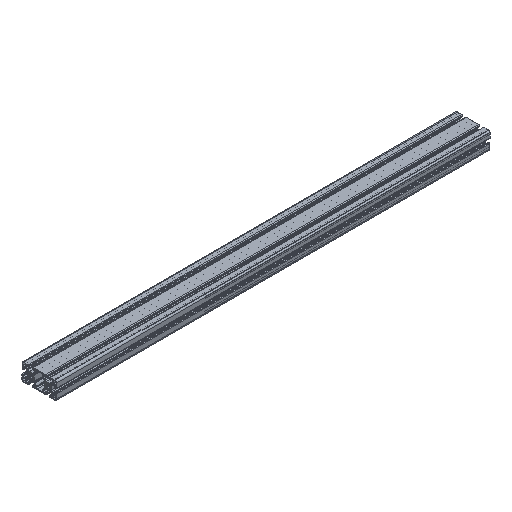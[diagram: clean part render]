
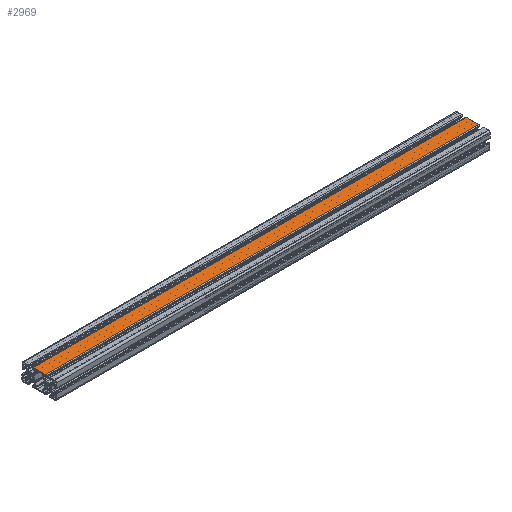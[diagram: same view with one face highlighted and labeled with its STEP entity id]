
A CAD part, isometric view. The second image highlights one B-rep face of the part: STEP entity #2969.
In plain terms, the highlighted planar face has unit normal (0, 0, 1).
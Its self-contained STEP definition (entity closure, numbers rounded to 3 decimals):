
#27 = LINE ( 'NONE', #3084, #1710 ) ;
#391 = CARTESIAN_POINT ( 'NONE',  ( 0., -14.35, 20. ) ) ;
#462 = VERTEX_POINT ( 'NONE', #6589 ) ;
#879 = VERTEX_POINT ( 'NONE', #391 ) ;
#1328 = VECTOR ( 'NONE', #8683, 1000. ) ;
#1641 = VECTOR ( 'NONE', #2100, 1000. ) ;
#1710 = VECTOR ( 'NONE', #6167, 1000. ) ;
#1873 = VECTOR ( 'NONE', #9812, 1000. ) ;
#2100 = DIRECTION ( 'NONE',  ( -1., 0., 0. ) ) ;
#2546 = ORIENTED_EDGE ( 'NONE', *, *, #3333, .F. ) ;
#2883 = FACE_OUTER_BOUND ( 'NONE', #5110, .T. ) ;
#2969 = ADVANCED_FACE ( 'NONE', ( #2883 ), #7565, .F. ) ;
#3084 = CARTESIAN_POINT ( 'NONE',  ( 0., -14.35, 20. ) ) ;
#3333 = EDGE_CURVE ( 'NONE', #6014, #462, #7453, .T. ) ;
#3745 = DIRECTION ( 'NONE',  ( 0., 0., -1. ) ) ;
#4010 = CARTESIAN_POINT ( 'NONE',  ( 1000., -14.35, 20. ) ) ;
#4526 = ORIENTED_EDGE ( 'NONE', *, *, #6786, .F. ) ;
#4545 = CARTESIAN_POINT ( 'NONE',  ( 1000., -14.35, 20. ) ) ;
#4964 = CARTESIAN_POINT ( 'NONE',  ( 0., 14.35, 20. ) ) ;
#5110 = EDGE_LOOP ( 'NONE', ( #6069, #4526, #2546, #9296 ) ) ;
#5848 = CARTESIAN_POINT ( 'NONE',  ( 1000., -14.35, 20. ) ) ;
#6014 = VERTEX_POINT ( 'NONE', #7397 ) ;
#6069 = ORIENTED_EDGE ( 'NONE', *, *, #9537, .T. ) ;
#6167 = DIRECTION ( 'NONE',  ( 0., -1., 0. ) ) ;
#6272 = VERTEX_POINT ( 'NONE', #4964 ) ;
#6420 = LINE ( 'NONE', #4010, #1328 ) ;
#6490 = EDGE_CURVE ( 'NONE', #6014, #6272, #9692, .T. ) ;
#6589 = CARTESIAN_POINT ( 'NONE',  ( 1000., -14.35, 20. ) ) ;
#6786 = EDGE_CURVE ( 'NONE', #462, #879, #6420, .T. ) ;
#7397 = CARTESIAN_POINT ( 'NONE',  ( 1000., 14.35, 20. ) ) ;
#7453 = LINE ( 'NONE', #5848, #1873 ) ;
#7565 = PLANE ( 'NONE',  #9942 ) ;
#8090 = CARTESIAN_POINT ( 'NONE',  ( 1000., 14.35, 20. ) ) ;
#8683 = DIRECTION ( 'NONE',  ( -1., 0., 0. ) ) ;
#8926 = DIRECTION ( 'NONE',  ( 0., 1., 0. ) ) ;
#9296 = ORIENTED_EDGE ( 'NONE', *, *, #6490, .T. ) ;
#9537 = EDGE_CURVE ( 'NONE', #6272, #879, #27, .T. ) ;
#9692 = LINE ( 'NONE', #8090, #1641 ) ;
#9812 = DIRECTION ( 'NONE',  ( 0., -1., 0. ) ) ;
#9942 = AXIS2_PLACEMENT_3D ( 'NONE', #4545, #3745, #8926 ) ;
